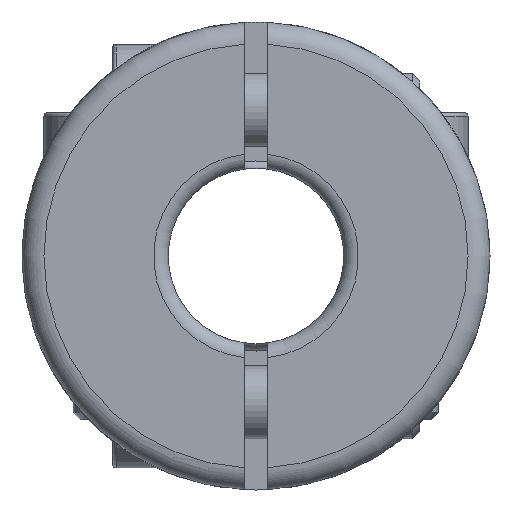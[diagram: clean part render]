
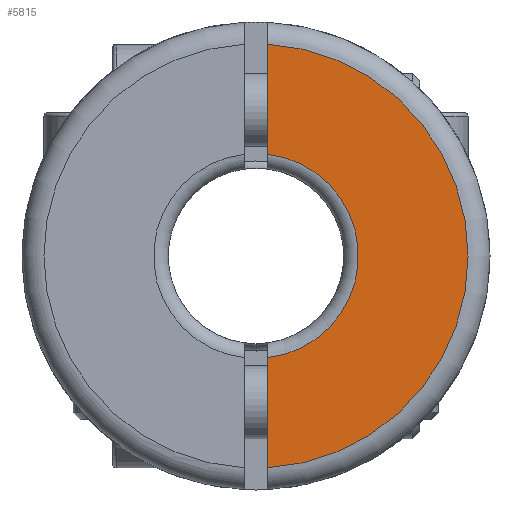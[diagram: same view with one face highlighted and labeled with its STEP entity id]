
A CAD part, left-side view. The second image highlights one B-rep face of the part: STEP entity #5815.
In plain terms, the highlighted planar face has unit normal (-1, 0, 0).
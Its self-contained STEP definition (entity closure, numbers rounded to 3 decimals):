
#34 = VECTOR ( 'NONE', #6417, 1000. ) ;
#35 = LINE ( 'NONE', #6425, #34 ) ;
#39 = CIRCLE ( 'NONE', #5264, 3.5 ) ;
#287 = DIRECTION ( 'NONE',  ( 0., 0., -1. ) ) ;
#302 = DIRECTION ( 'NONE',  ( -1., 0., 0. ) ) ;
#359 = LINE ( 'NONE', #538, #779 ) ;
#482 = VERTEX_POINT ( 'NONE', #1586 ) ;
#500 = CARTESIAN_POINT ( 'NONE',  ( -11.5, -0.4, -7.239 ) ) ;
#538 = CARTESIAN_POINT ( 'NONE',  ( -11.5, -0.4, 7.99 ) ) ;
#607 = EDGE_CURVE ( 'NONE', #1293, #482, #359, .T. ) ;
#683 = EDGE_CURVE ( 'NONE', #1466, #2629, #35, .T. ) ;
#779 = VECTOR ( 'NONE', #287, 1000. ) ;
#841 = FACE_OUTER_BOUND ( 'NONE', #6187, .T. ) ;
#1002 = CIRCLE ( 'NONE', #3099, 7.25 ) ;
#1293 = VERTEX_POINT ( 'NONE', #2579 ) ;
#1466 = VERTEX_POINT ( 'NONE', #1809 ) ;
#1586 = CARTESIAN_POINT ( 'NONE',  ( -11.5, -0.4, 3.477 ) ) ;
#1809 = CARTESIAN_POINT ( 'NONE',  ( -11.5, -0.4, -3.477 ) ) ;
#2322 = AXIS2_PLACEMENT_3D ( 'NONE', #5516, #2352, #6050 ) ;
#2352 = DIRECTION ( 'NONE',  ( 1., 0., 0. ) ) ;
#2566 = CARTESIAN_POINT ( 'NONE',  ( -11.5, 0., 0. ) ) ;
#2579 = CARTESIAN_POINT ( 'NONE',  ( -11.5, -0.4, 7.239 ) ) ;
#2629 = VERTEX_POINT ( 'NONE', #500 ) ;
#2847 = PLANE ( 'NONE',  #2322 ) ;
#3053 = DIRECTION ( 'NONE',  ( 0., 0., -1. ) ) ;
#3099 = AXIS2_PLACEMENT_3D ( 'NONE', #3364, #302, #3880 ) ;
#3364 = CARTESIAN_POINT ( 'NONE',  ( -11.5, 0., 0. ) ) ;
#3880 = DIRECTION ( 'NONE',  ( 0., 0., -1. ) ) ;
#5115 = ORIENTED_EDGE ( 'NONE', *, *, #607, .T. ) ;
#5159 = ORIENTED_EDGE ( 'NONE', *, *, #6043, .T. ) ;
#5262 = ORIENTED_EDGE ( 'NONE', *, *, #683, .T. ) ;
#5264 = AXIS2_PLACEMENT_3D ( 'NONE', #2566, #6253, #3053 ) ;
#5290 = ORIENTED_EDGE ( 'NONE', *, *, #5803, .T. ) ;
#5516 = CARTESIAN_POINT ( 'NONE',  ( -11.5, 0., 0. ) ) ;
#5803 = EDGE_CURVE ( 'NONE', #2629, #1293, #1002, .T. ) ;
#5815 = ADVANCED_FACE ( 'NONE', ( #841 ), #2847, .F. ) ;
#6043 = EDGE_CURVE ( 'NONE', #482, #1466, #39, .T. ) ;
#6050 = DIRECTION ( 'NONE',  ( 0., 0., -1. ) ) ;
#6187 = EDGE_LOOP ( 'NONE', ( #5115, #5159, #5262, #5290 ) ) ;
#6253 = DIRECTION ( 'NONE',  ( 1., 0., 0. ) ) ;
#6417 = DIRECTION ( 'NONE',  ( 0., 0., -1. ) ) ;
#6425 = CARTESIAN_POINT ( 'NONE',  ( -11.5, -0.4, 7.99 ) ) ;
